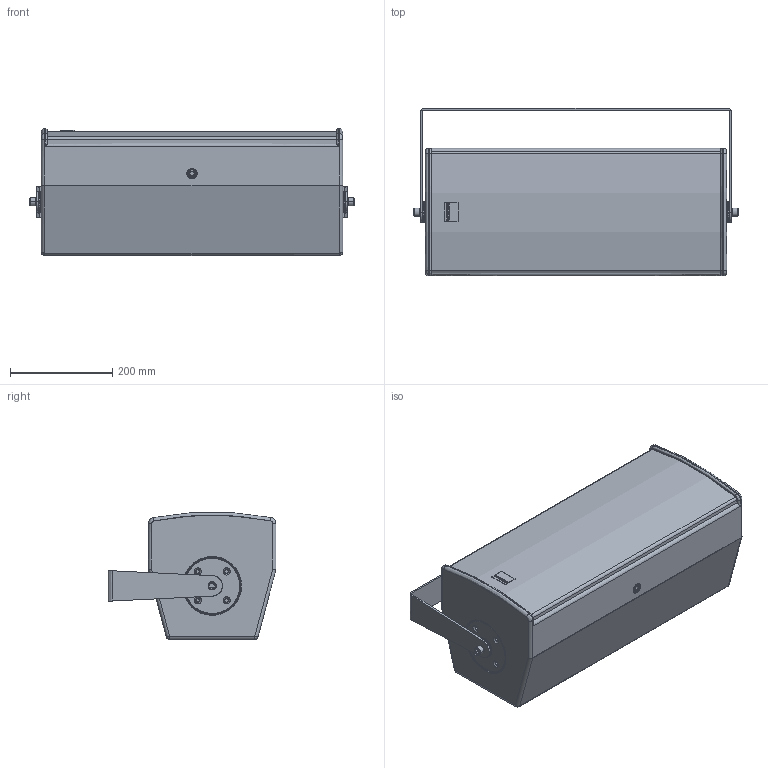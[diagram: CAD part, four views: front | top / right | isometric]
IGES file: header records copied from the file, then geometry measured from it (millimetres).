
Start section: SolidWorks IGES file using analytic representation for surfaces
Global section: file name: C:\Dokumente und Einstellungen\PC_Fabian\Desktop\3d_Dateien_Homepage\A-Serie\SEEBURG_A3_Bracket-hor.IGS; native system: SolidWorks 2009; preprocessor: SolidWorks 2009; author: PC_Fabian; date: 120927.153547; units: millimetre
Bounding box: 635.07 x 329 x 248.75 mm (x, y, z)
Surface area: 1664846.8 mm2 (no closed solid volume)
Topology: 0 solids, 0 shells, 511 faces, 6496 edges, 6494 vertices
Faces by surface type: revolution 266, bspline 245
